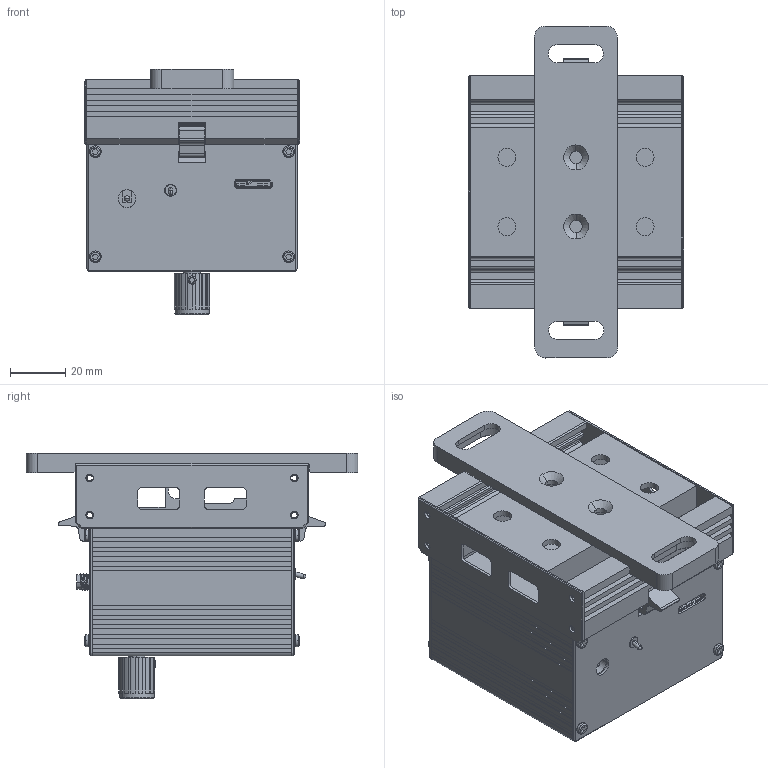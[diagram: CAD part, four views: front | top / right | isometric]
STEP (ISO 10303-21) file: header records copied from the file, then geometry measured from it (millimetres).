
FILE_DESCRIPTION((''),'2;1');
FILE_NAME('OBS-C1_ASM','2025-03-20T17:43:22',('R&D'),(''),'CREO PARAMETRIC BY PTC INC, 2021063','CREO PARAMETRIC BY PTC INC, 2021063','');
FILE_SCHEMA(('CONFIG_CONTROL_DESIGN'));
Products named in the file (29): OPMC-X4_A1; OBS-C1_PCB1; SMC10-P323B1-00_1_; DC-005; SMA-KWE; USB3_B; OBS-C1_PCBA1_ASM; OBS-C1_PCBA2; EC11; LCD; OBS-C1_PCBA2_ASM; OBS-C1_A2; OBS-C1_A3; OBS-C1_LABLE; OBS-C1_A4; OBS-C1_A5; JGZ_M2X9; NUT_2; M2X6_KM_2; M2X6_PM_2; M3X3_HS; 12VAV; KCH_A8; KCH-A_A5; KCH_A7; KCH-A1-A1_ASM; KCH-A_A3; KCH-A_A4; OBS-C1_ASM
Assembly tree (46 placements, depth 3):
  OBS-C1_ASM
    OPMC-X4_A1
    OBS-C1_PCBA1_ASM
      OBS-C1_PCB1
      SMC10-P323B1-00_1_
      DC-005
      SMA-KWE  x2
      USB3_B
    OBS-C1_PCBA2_ASM
      OBS-C1_PCBA2
      EC11
      LCD
    OBS-C1_A2
    OBS-C1_A3
    OBS-C1_LABLE
    OBS-C1_A4
    OBS-C1_A5
    JGZ_M2X9  x4
    NUT_2  x4
    M2X6_KM_2  x4
    M2X6_PM_2  x8
    M3X3_HS
    12VAV
    KCH-A1-A1_ASM
      KCH_A8
      KCH-A_A5  x2
      KCH_A7
    KCH-A_A3
    KCH-A_A4
Bounding box: 78 x 120.03 x 88.65 mm (x, y, z)
Volume: 133227.1 mm3; surface area: 144656.5 mm2
Topology: 44 solids, 44 shells, 3258 faces, 8898 edges, 5851 vertices
Faces by surface type: plane 2119, cylinder 956, cone 105, bspline 62, torus 12, sphere 4
Entity records: 100136 total; most frequent: CARTESIAN_POINT 24439, ORIENTED_EDGE 16056, DIRECTION 15100, EDGE_CURVE 8028, VECTOR 5968, LINE 5968, VERTEX_POINT 5298, AXIS2_PLACEMENT_3D 4566
